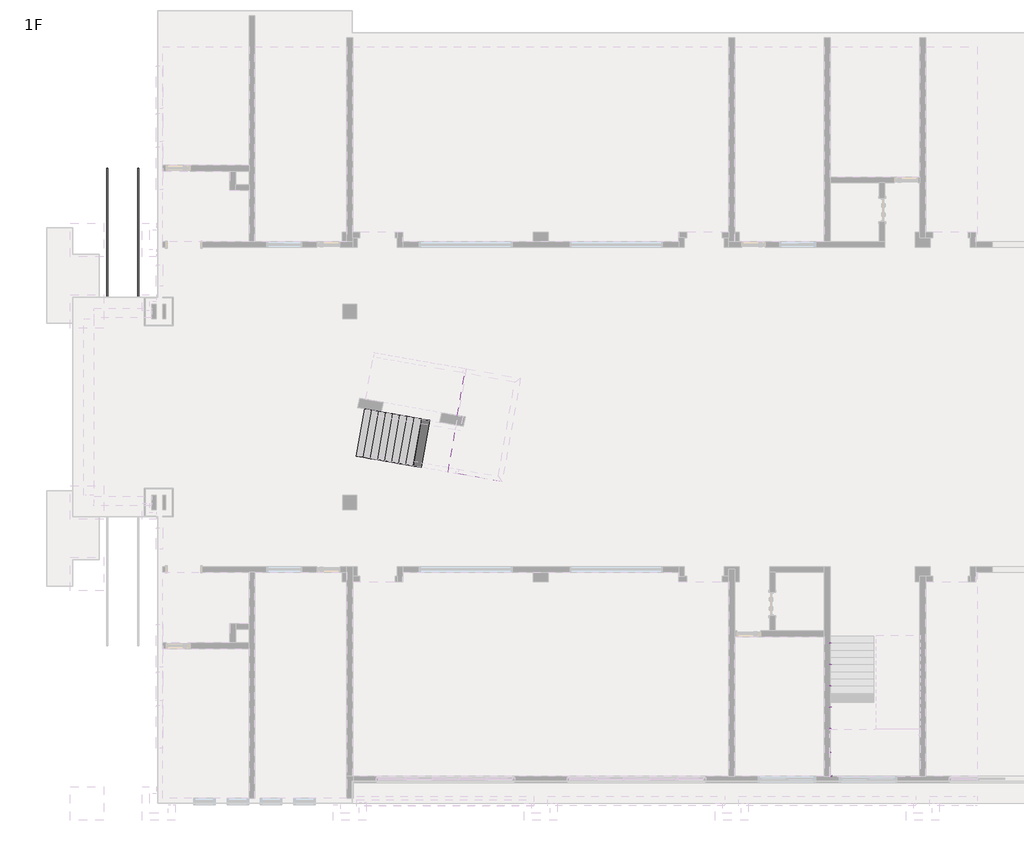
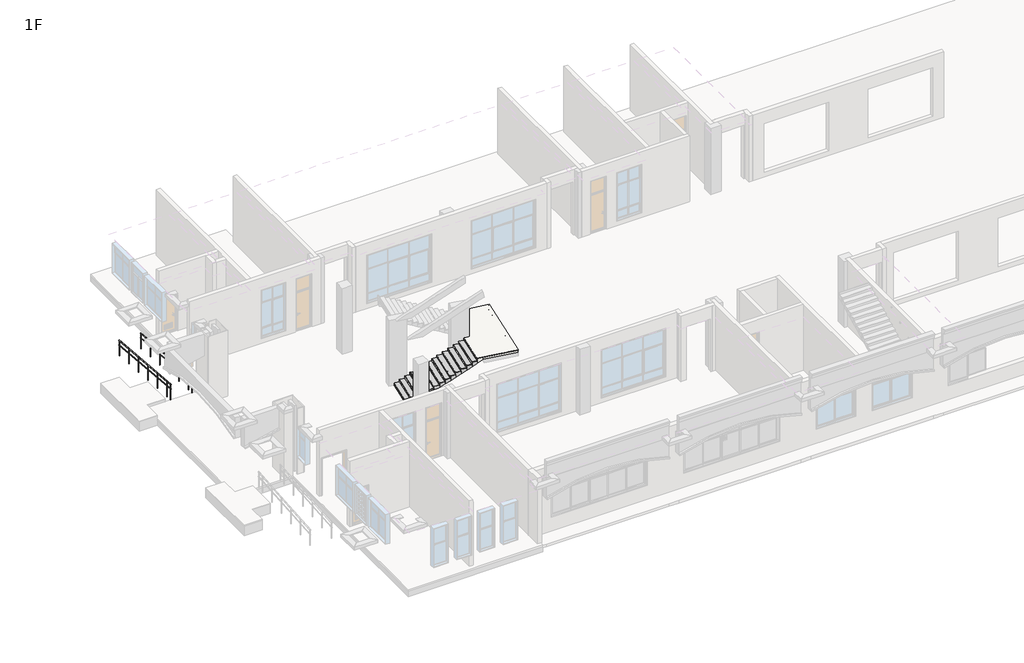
# One storey, part 9 of 16: 7 proxies, 2 railings, 1 slab, 1 stair flight.
"""IFC4 building model written with IfcOpenShell, lengths in millimetres."""

from ifc_helpers import new_model, si_unit, frame, origin, origin_with_axes, place, context, project, spatial, polyline, ellipse_curve, outline, extrude, faceted_brep, transform, mapped, element, save
from ifc_brep_helpers import plane_surface, cylinder_surface, advanced_brep
from components import building_element_proxy_cf76aa7a

model = new_model("IFC4")

# Units and contexts
model_context = context("Model", 3, world=origin())
ifc_project = project(units=[si_unit("LENGTHUNIT", "METRE", prefix="MILLI")], contexts=[model_context])

# Site, building, storey
site = spatial("IfcSite", under=ifc_project)
building = spatial("IfcBuilding", under=site)
storey = spatial("IfcBuildingStorey", under=building, Name="1F", Elevation=0.0)

# Proxies
placement = place(None, origin())
building_element_proxy_shape = building_element_proxy_cf76aa7a(model_context)
element("IfcBuildingElementProxy", 1, Name="支座 - 金属 - 圆形 : 支座 - 金属 - 圆形", ObjectType="支座 - 金属 - 圆形 : 支座 - 金属 - 圆形", at=placement, inside=storey, context=model_context, shape_type="MappedRepresentation", body=[
    mapped(building_element_proxy_shape, transform((31155.0000029, 6712.7401503, 1363.4764574), x_axis=(0.0, 1.0, 0.0), y_axis=(-1.0, 0.0, 0.0), z_axis=(0.0, 0.0, 1.0))),
])
element("IfcBuildingElementProxy", 2, Name="支座 - 金属 - 圆形 : 支座 - 金属 - 圆形", ObjectType="支座 - 金属 - 圆形 : 支座 - 金属 - 圆形", at=placement, inside=storey, context=model_context, shape_type="MappedRepresentation", body=[
    mapped(building_element_proxy_shape, transform((31155.0000029, 5818.3129593, 1810.6900529), x_axis=(0.0, 1.0, 0.0), y_axis=(-1.0, 0.0, 0.0), z_axis=(0.0, 0.0, 1.0))),
])
element("IfcBuildingElementProxy", 3, Name="支座 - 金属 - 圆形 : 支座 - 金属 - 圆形", ObjectType="支座 - 金属 - 圆形 : 支座 - 金属 - 圆形", at=placement, inside=storey, context=model_context, shape_type="MappedRepresentation", body=[
    mapped(building_element_proxy_shape, transform((31155.0000029, 4923.8857683, 2257.9036484), x_axis=(0.0, 1.0, 0.0), y_axis=(-1.0, 0.0, 0.0), z_axis=(0.0, 0.0, 1.0))),
])
element("IfcBuildingElementProxy", 4, Name="支座 - 金属 - 圆形 : 支座 - 金属 - 圆形", ObjectType="支座 - 金属 - 圆形 : 支座 - 金属 - 圆形", at=placement, inside=storey, context=model_context, shape_type="MappedRepresentation", body=[
    mapped(building_element_proxy_shape, transform((31155.0000029, 4029.4585773, 2705.1172439), x_axis=(0.0, 1.0, 0.0), y_axis=(-1.0, 0.0, 0.0), z_axis=(0.0, 0.0, 1.0))),
])
element("IfcBuildingElementProxy", 5, Name="支座 - 金属 - 圆形 : 支座 - 金属 - 圆形", ObjectType="支座 - 金属 - 圆形 : 支座 - 金属 - 圆形", at=placement, inside=storey, context=model_context, shape_type="MappedRepresentation", body=[
    mapped(building_element_proxy_shape, transform((31155.0000029, 3135.0313863, 3152.3308394), x_axis=(0.0, 1.0, 0.0), y_axis=(-1.0, 0.0, 0.0), z_axis=(0.0, 0.0, 1.0))),
])
element("IfcBuildingElementProxy", 6, Name="支座 - 金属 - 圆形 : 支座 - 金属 - 圆形", ObjectType="支座 - 金属 - 圆形 : 支座 - 金属 - 圆形", at=placement, inside=storey, context=model_context, shape_type="MappedRepresentation", body=[
    mapped(building_element_proxy_shape, transform((31155.0000029, 2139.1662806, 3169.8465326), x_axis=(0.0, 1.0, 0.0), y_axis=(-1.0, 0.0, 0.0), z_axis=(0.0, 0.0, 1.0))),
])
element("IfcBuildingElementProxy", 7, Name="支座 - 金属 - 圆形 : 支座 - 金属 - 圆形", ObjectType="支座 - 金属 - 圆形 : 支座 - 金属 - 圆形", at=placement, inside=storey, context=model_context, shape_type="MappedRepresentation", body=[
    mapped(building_element_proxy_shape, transform((31188.8337223, 1173.0, 3169.8465326), x_axis=(-1.0, 0.0, 0.0), y_axis=(0.0, -1.0, 0.0), z_axis=(0.0, 0.0, 1.0))),
])

# Railings
element("IfcRailing", 8, ObjectType="教学楼 – 无障碍坡道扶手 – 1000mm", at=placement, inside=storey, context=model_context, shape_type="AdvancedBrep", body=[
    advanced_brep(
    [(830.0, 26600.0, 529.9306757), (870.0, 26600.0, 529.9306757), (830.0, 21200.0, 979.9306757), (870.0, 21200.0, 979.9306757)],
    [
        (0, 1, ellipse_curve(frame((850.0, 26600.0, 529.9306757), z_axis=(0.0, 1.0, 0.0), x_axis=(0.0, 0.0, -1.0)), 20.0693243, 20.0)),
        (1, 0, ellipse_curve(frame((850.0, 26600.0, 529.9306757), z_axis=(0.0, 1.0, 0.0), x_axis=(0.0, 0.0, -1.0)), 20.0693243, 20.0)),
        (2, 3, ellipse_curve(frame((850.0, 21200.0, 979.9306757), z_axis=(0.0, -1.0, 0.0), x_axis=(0.0, 0.0, -1.0)), 20.0693243, 20.0)),
        (3, 2, ellipse_curve(frame((850.0, 21200.0, 979.9306757), z_axis=(0.0, -1.0, 0.0), x_axis=(0.0, 0.0, -1.0)), 20.0693243, 20.0)),
        (0, 2),
        (3, 1),
    ],
    [
        plane_surface(frame((850.0, 26600.0, 550.0), z_axis=(0.0, 1.0, 0.0), x_axis=(0.0, 0.0, -1.0))),
        plane_surface(frame((850.0, 21200.0, 1000.0), z_axis=(0.0, -1.0, 0.0), x_axis=(0.0, 0.0, -1.0))),
        cylinder_surface(frame((850.0, 26598.3390904, 530.0690848), z_axis=(0.0, 0.9965457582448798, -0.08304547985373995), x_axis=(1.0, 0.0, 0.0)), 20.0),
    ],
    [
        (0, [[1, 2]]),
        (1, [[3, 4]]),
        (2, [[-1, 5, -4, 6]]),
        (2, [[-2, -6, -3, -5]]),
    ],
),
    advanced_brep(
    [(865.0, 26600.0, 234.9480068), (835.0, 26600.0, 234.9480068), (865.0, 21200.0, 684.9480068), (835.0, 21200.0, 684.9480068)],
    [
        (0, 1, ellipse_curve(frame((850.0, 26600.0, 234.9480068), z_axis=(0.0, 1.0, 0.0), x_axis=(0.0, 0.0, -1.0)), 15.0519932, 15.0)),
        (1, 0, ellipse_curve(frame((850.0, 26600.0, 234.9480068), z_axis=(0.0, 1.0, 0.0), x_axis=(0.0, 0.0, -1.0)), 15.0519932, 15.0)),
        (2, 3, ellipse_curve(frame((850.0, 21200.0, 684.9480068), z_axis=(0.0, -1.0, 0.0), x_axis=(0.0, 0.0, -1.0)), 15.0519932, 15.0)),
        (3, 2, ellipse_curve(frame((850.0, 21200.0, 684.9480068), z_axis=(0.0, -1.0, 0.0), x_axis=(0.0, 0.0, -1.0)), 15.0519932, 15.0)),
        (0, 2),
        (3, 1),
    ],
    [
        plane_surface(frame((850.0, 26600.0, 250.0), z_axis=(0.0, 1.0, 0.0), x_axis=(0.0, 0.0, -1.0))),
        plane_surface(frame((850.0, 21200.0, 700.0), z_axis=(0.0, -1.0, 0.0), x_axis=(0.0, 0.0, -1.0))),
        cylinder_surface(frame((850.0, 26598.7543178, 235.0518136), z_axis=(0.0, 0.9965457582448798, -0.08304547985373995), x_axis=(-1.0, 0.0, 0.0)), 15.0),
    ],
    [
        (0, [[1, 2]]),
        (1, [[3, 4]]),
        (2, [[-1, 5, -4, 6]]),
        (2, [[-2, -6, -3, -5]]),
    ],
),
    advanced_brep(
    [(837.5, 21600.0, 926.5280181), (837.5, 21600.0, -33.3333333), (862.5, 21600.0, -33.3333333), (862.5, 21600.0, 926.5280181)],
    [
        (0, 1),
        (1, 2, ellipse_curve(frame((850.0, 21600.0, -33.3333333), z_axis=(0.0, 0.08304547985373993, 0.9965457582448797), x_axis=(0.0, -0.9965457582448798, 0.08304547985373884)), 12.5433277, 12.5)),
        (2, 3),
        (3, 0, ellipse_curve(frame((850.0, 21600.0, 926.5280181), z_axis=(0.0, -0.08304547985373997, -0.9965457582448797), x_axis=(0.0, -0.9965457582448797, 0.0830454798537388)), 12.5433277, 12.5)),
        (0, 3, ellipse_curve(frame((850.0, 21600.0, 926.5280181), z_axis=(0.0, -0.08304547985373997, -0.9965457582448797), x_axis=(0.0, -0.9965457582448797, 0.0830454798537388)), 12.5433277, 12.5)),
        (2, 1, ellipse_curve(frame((850.0, 21600.0, -33.3333333), z_axis=(0.0, 0.08304547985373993, 0.9965457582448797), x_axis=(0.0, -0.9965457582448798, 0.08304547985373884)), 12.5433277, 12.5)),
    ],
    [
        cylinder_surface(frame((850.0, 21600.0, -133.3333333), z_axis=(0.0, 0.0, 1.0), x_axis=(1.0, 0.0, 0.0)), 12.5),
        plane_surface(frame((875.0, 21575.0, 928.6113514), z_axis=(0.0, 0.08304547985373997, 0.9965457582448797), x_axis=(-1.0, 0.0, 0.0))),
        plane_surface(frame((875.0, 21625.0, -35.4166667), z_axis=(0.0, -0.08304547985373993, -0.9965457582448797), x_axis=(-1.0, 0.0, 0.0))),
    ],
    [
        (0, [[1, 2, 3, 4]]),
        (0, [[-1, 5, -3, 6]]),
        (1, [[-4, -5]]),
        (2, [[-2, -6]]),
    ],
),
    advanced_brep(
    [(837.5, 22600.0, 843.1946847), (837.5, 22600.0, -116.6666667), (862.5, 22600.0, -116.6666667), (862.5, 22600.0, 843.1946847)],
    [
        (0, 1),
        (1, 2, ellipse_curve(frame((850.0, 22600.0, -116.6666667), z_axis=(0.0, 0.08304547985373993, 0.9965457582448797), x_axis=(0.0, -0.9965457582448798, 0.08304547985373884)), 12.5433277, 12.5)),
        (2, 3),
        (3, 0, ellipse_curve(frame((850.0, 22600.0, 843.1946847), z_axis=(0.0, -0.08304547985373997, -0.9965457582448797), x_axis=(0.0, -0.9965457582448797, 0.0830454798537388)), 12.5433277, 12.5)),
        (0, 3, ellipse_curve(frame((850.0, 22600.0, 843.1946847), z_axis=(0.0, -0.08304547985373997, -0.9965457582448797), x_axis=(0.0, -0.9965457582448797, 0.0830454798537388)), 12.5433277, 12.5)),
        (2, 1, ellipse_curve(frame((850.0, 22600.0, -116.6666667), z_axis=(0.0, 0.08304547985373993, 0.9965457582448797), x_axis=(0.0, -0.9965457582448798, 0.08304547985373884)), 12.5433277, 12.5)),
    ],
    [
        cylinder_surface(frame((850.0, 22600.0, -216.6666667), z_axis=(0.0, 0.0, 1.0), x_axis=(1.0, 0.0, 0.0)), 12.5),
        plane_surface(frame((875.0, 22575.0, 845.2780181), z_axis=(0.0, 0.08304547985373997, 0.9965457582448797), x_axis=(-1.0, 0.0, 0.0))),
        plane_surface(frame((875.0, 22625.0, -118.75), z_axis=(0.0, -0.08304547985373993, -0.9965457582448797), x_axis=(-1.0, 0.0, 0.0))),
    ],
    [
        (0, [[1, 2, 3, 4]]),
        (0, [[-1, 5, -3, 6]]),
        (1, [[-4, -5]]),
        (2, [[-2, -6]]),
    ],
),
    advanced_brep(
    [(837.5, 23600.0, 759.8613514), (837.5, 23600.0, -200.0), (862.5, 23600.0, -200.0), (862.5, 23600.0, 759.8613514)],
    [
        (0, 1),
        (1, 2, ellipse_curve(frame((850.0, 23600.0, -200.0), z_axis=(0.0, 0.08304547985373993, 0.9965457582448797), x_axis=(0.0, -0.9965457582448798, 0.08304547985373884)), 12.5433277, 12.5)),
        (2, 3),
        (3, 0, ellipse_curve(frame((850.0, 23600.0, 759.8613514), z_axis=(0.0, -0.08304547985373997, -0.9965457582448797), x_axis=(0.0, -0.9965457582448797, 0.0830454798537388)), 12.5433277, 12.5)),
        (0, 3, ellipse_curve(frame((850.0, 23600.0, 759.8613514), z_axis=(0.0, -0.08304547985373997, -0.9965457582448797), x_axis=(0.0, -0.9965457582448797, 0.0830454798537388)), 12.5433277, 12.5)),
        (2, 1, ellipse_curve(frame((850.0, 23600.0, -200.0), z_axis=(0.0, 0.08304547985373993, 0.9965457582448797), x_axis=(0.0, -0.9965457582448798, 0.08304547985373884)), 12.5433277, 12.5)),
    ],
    [
        cylinder_surface(frame((850.0, 23600.0, -300.0), z_axis=(0.0, 0.0, 1.0), x_axis=(1.0, 0.0, 0.0)), 12.5),
        plane_surface(frame((875.0, 23575.0, 761.9446847), z_axis=(0.0, 0.08304547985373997, 0.9965457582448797), x_axis=(-1.0, 0.0, 0.0))),
        plane_surface(frame((875.0, 23625.0, -202.0833333), z_axis=(0.0, -0.08304547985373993, -0.9965457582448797), x_axis=(-1.0, 0.0, 0.0))),
    ],
    [
        (0, [[1, 2, 3, 4]]),
        (0, [[-1, 5, -3, 6]]),
        (1, [[-4, -5]]),
        (2, [[-2, -6]]),
    ],
),
    advanced_brep(
    [(837.5, 24600.0, 676.5280181), (837.5, 24600.0, -283.3333333), (862.5, 24600.0, -283.3333333), (862.5, 24600.0, 676.5280181)],
    [
        (0, 1),
        (1, 2, ellipse_curve(frame((850.0, 24600.0, -283.3333333), z_axis=(0.0, 0.08304547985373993, 0.9965457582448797), x_axis=(0.0, -0.9965457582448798, 0.08304547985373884)), 12.5433277, 12.5)),
        (2, 3),
        (3, 0, ellipse_curve(frame((850.0, 24600.0, 676.5280181), z_axis=(0.0, -0.08304547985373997, -0.9965457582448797), x_axis=(0.0, -0.9965457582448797, 0.0830454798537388)), 12.5433277, 12.5)),
        (0, 3, ellipse_curve(frame((850.0, 24600.0, 676.5280181), z_axis=(0.0, -0.08304547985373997, -0.9965457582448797), x_axis=(0.0, -0.9965457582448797, 0.0830454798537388)), 12.5433277, 12.5)),
        (2, 1, ellipse_curve(frame((850.0, 24600.0, -283.3333333), z_axis=(0.0, 0.08304547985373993, 0.9965457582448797), x_axis=(0.0, -0.9965457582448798, 0.08304547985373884)), 12.5433277, 12.5)),
    ],
    [
        cylinder_surface(frame((850.0, 24600.0, -383.3333333), z_axis=(0.0, 0.0, 1.0), x_axis=(1.0, 0.0, 0.0)), 12.5),
        plane_surface(frame((875.0, 24575.0, 678.6113514), z_axis=(0.0, 0.08304547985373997, 0.9965457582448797), x_axis=(-1.0, 0.0, 0.0))),
        plane_surface(frame((875.0, 24625.0, -285.4166667), z_axis=(0.0, -0.08304547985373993, -0.9965457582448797), x_axis=(-1.0, 0.0, 0.0))),
    ],
    [
        (0, [[1, 2, 3, 4]]),
        (0, [[-1, 5, -3, 6]]),
        (1, [[-4, -5]]),
        (2, [[-2, -6]]),
    ],
),
    advanced_brep(
    [(837.5, 25600.0, 593.1946847), (837.5, 25600.0, -366.6666667), (862.5, 25600.0, -366.6666667), (862.5, 25600.0, 593.1946847)],
    [
        (0, 1),
        (1, 2, ellipse_curve(frame((850.0, 25600.0, -366.6666667), z_axis=(0.0, 0.08304547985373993, 0.9965457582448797), x_axis=(0.0, -0.9965457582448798, 0.08304547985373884)), 12.5433277, 12.5)),
        (2, 3),
        (3, 0, ellipse_curve(frame((850.0, 25600.0, 593.1946847), z_axis=(0.0, -0.08304547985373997, -0.9965457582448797), x_axis=(0.0, -0.9965457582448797, 0.0830454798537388)), 12.5433277, 12.5)),
        (0, 3, ellipse_curve(frame((850.0, 25600.0, 593.1946847), z_axis=(0.0, -0.08304547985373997, -0.9965457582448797), x_axis=(0.0, -0.9965457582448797, 0.0830454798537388)), 12.5433277, 12.5)),
        (2, 1, ellipse_curve(frame((850.0, 25600.0, -366.6666667), z_axis=(0.0, 0.08304547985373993, 0.9965457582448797), x_axis=(0.0, -0.9965457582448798, 0.08304547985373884)), 12.5433277, 12.5)),
    ],
    [
        cylinder_surface(frame((850.0, 25600.0, -466.6666667), z_axis=(0.0, 0.0, 1.0), x_axis=(1.0, 0.0, 0.0)), 12.5),
        plane_surface(frame((875.0, 25575.0, 595.2780181), z_axis=(0.0, 0.08304547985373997, 0.9965457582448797), x_axis=(-1.0, 0.0, 0.0))),
        plane_surface(frame((875.0, 25625.0, -368.75), z_axis=(0.0, -0.08304547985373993, -0.9965457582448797), x_axis=(-1.0, 0.0, 0.0))),
    ],
    [
        (0, [[1, 2, 3, 4]]),
        (0, [[-1, 5, -3, 6]]),
        (1, [[-4, -5]]),
        (2, [[-2, -6]]),
    ],
),
    advanced_brep(
    [(837.5, 21212.5, 958.8196847), (837.5, 21212.5, -1.0416667), (862.5, 21212.5, -1.0416667), (862.5, 21212.5, 958.8196847)],
    [
        (0, 1),
        (1, 2, ellipse_curve(frame((850.0, 21212.5, -1.0416667), z_axis=(0.0, 0.08304547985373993, 0.9965457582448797), x_axis=(0.0, -0.9965457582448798, 0.08304547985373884)), 12.5433277, 12.5)),
        (2, 3),
        (3, 0, ellipse_curve(frame((850.0, 21212.5, 958.8196847), z_axis=(0.0, -0.08304547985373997, -0.9965457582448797), x_axis=(0.0, -0.9965457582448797, 0.0830454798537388)), 12.5433277, 12.5)),
        (0, 3, ellipse_curve(frame((850.0, 21212.5, 958.8196847), z_axis=(0.0, -0.08304547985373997, -0.9965457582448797), x_axis=(0.0, -0.9965457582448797, 0.0830454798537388)), 12.5433277, 12.5)),
        (2, 1, ellipse_curve(frame((850.0, 21212.5, -1.0416667), z_axis=(0.0, 0.08304547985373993, 0.9965457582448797), x_axis=(0.0, -0.9965457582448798, 0.08304547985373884)), 12.5433277, 12.5)),
    ],
    [
        cylinder_surface(frame((850.0, 21212.5, -101.0416667), z_axis=(0.0, 0.0, 1.0), x_axis=(1.0, 0.0, 0.0)), 12.5),
        plane_surface(frame((875.0, 21187.5, 960.9030181), z_axis=(0.0, 0.08304547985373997, 0.9965457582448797), x_axis=(-1.0, 0.0, 0.0))),
        plane_surface(frame((875.0, 21237.5, -3.125), z_axis=(0.0, -0.08304547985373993, -0.9965457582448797), x_axis=(-1.0, 0.0, 0.0))),
    ],
    [
        (0, [[1, 2, 3, 4]]),
        (0, [[-1, 5, -3, 6]]),
        (1, [[-4, -5]]),
        (2, [[-2, -6]]),
    ],
),
    advanced_brep(
    [(837.5, 26587.5, 510.9030181), (837.5, 26587.5, -448.9583333), (862.5, 26587.5, -448.9583333), (862.5, 26587.5, 510.9030181)],
    [
        (0, 1),
        (1, 2, ellipse_curve(frame((850.0, 26587.5, -448.9583333), z_axis=(0.0, 0.08304547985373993, 0.9965457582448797), x_axis=(0.0, -0.9965457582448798, 0.08304547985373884)), 12.5433277, 12.5)),
        (2, 3),
        (3, 0, ellipse_curve(frame((850.0, 26587.5, 510.9030181), z_axis=(0.0, -0.08304547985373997, -0.9965457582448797), x_axis=(0.0, -0.9965457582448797, 0.0830454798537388)), 12.5433277, 12.5)),
        (0, 3, ellipse_curve(frame((850.0, 26587.5, 510.9030181), z_axis=(0.0, -0.08304547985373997, -0.9965457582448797), x_axis=(0.0, -0.9965457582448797, 0.0830454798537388)), 12.5433277, 12.5)),
        (2, 1, ellipse_curve(frame((850.0, 26587.5, -448.9583333), z_axis=(0.0, 0.08304547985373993, 0.9965457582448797), x_axis=(0.0, -0.9965457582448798, 0.08304547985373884)), 12.5433277, 12.5)),
    ],
    [
        cylinder_surface(frame((850.0, 26587.5, -548.9583333), z_axis=(0.0, 0.0, 1.0), x_axis=(1.0, 0.0, 0.0)), 12.5),
        plane_surface(frame((875.0, 26562.5, 512.9863514), z_axis=(0.0, 0.08304547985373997, 0.9965457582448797), x_axis=(-1.0, 0.0, 0.0))),
        plane_surface(frame((875.0, 26612.5, -451.0416667), z_axis=(0.0, -0.08304547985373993, -0.9965457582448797), x_axis=(-1.0, 0.0, 0.0))),
    ],
    [
        (0, [[1, 2, 3, 4]]),
        (0, [[-1, 5, -3, 6]]),
        (1, [[-4, -5]]),
        (2, [[-2, -6]]),
    ],
),
])
element("IfcRailing", 9, ObjectType="教学楼 – 无障碍坡道扶手 – 1000mm", at=placement, inside=storey, context=model_context, shape_type="AdvancedBrep", body=[
    advanced_brep(
    [(2130.0, 26600.0, 529.9306757), (2170.0, 26600.0, 529.9306757), (2130.0, 21200.0, 979.9306757), (2170.0, 21200.0, 979.9306757)],
    [
        (0, 1, ellipse_curve(frame((2150.0, 26600.0, 529.9306757), z_axis=(0.0, 1.0, 0.0), x_axis=(0.0, 0.0, -1.0)), 20.0693243, 20.0)),
        (1, 0, ellipse_curve(frame((2150.0, 26600.0, 529.9306757), z_axis=(0.0, 1.0, 0.0), x_axis=(0.0, 0.0, -1.0)), 20.0693243, 20.0)),
        (2, 3, ellipse_curve(frame((2150.0, 21200.0, 979.9306757), z_axis=(0.0, -1.0, 0.0), x_axis=(0.0, 0.0, -1.0)), 20.0693243, 20.0)),
        (3, 2, ellipse_curve(frame((2150.0, 21200.0, 979.9306757), z_axis=(0.0, -1.0, 0.0), x_axis=(0.0, 0.0, -1.0)), 20.0693243, 20.0)),
        (0, 2),
        (3, 1),
    ],
    [
        plane_surface(frame((2150.0, 26600.0, 550.0), z_axis=(0.0, 1.0, 0.0), x_axis=(0.0, 0.0, -1.0))),
        plane_surface(frame((2150.0, 21200.0, 1000.0), z_axis=(0.0, -1.0, 0.0), x_axis=(0.0, 0.0, -1.0))),
        cylinder_surface(frame((2150.0, 26598.3390904, 530.0690848), z_axis=(0.0, 0.9965457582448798, -0.08304547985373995), x_axis=(1.0, 0.0, 0.0)), 20.0),
    ],
    [
        (0, [[1, 2]]),
        (1, [[3, 4]]),
        (2, [[-1, 5, -4, 6]]),
        (2, [[-2, -6, -3, -5]]),
    ],
),
    advanced_brep(
    [(2135.0, 26600.0, 234.9480068), (2165.0, 26600.0, 234.9480068), (2135.0, 21200.0, 684.9480068), (2165.0, 21200.0, 684.9480068)],
    [
        (0, 1, ellipse_curve(frame((2150.0, 26600.0, 234.9480068), z_axis=(0.0, 1.0, 0.0), x_axis=(0.0, 0.0, -1.0)), 15.0519932, 15.0)),
        (1, 0, ellipse_curve(frame((2150.0, 26600.0, 234.9480068), z_axis=(0.0, 1.0, 0.0), x_axis=(0.0, 0.0, -1.0)), 15.0519932, 15.0)),
        (2, 3, ellipse_curve(frame((2150.0, 21200.0, 684.9480068), z_axis=(0.0, -1.0, 0.0), x_axis=(0.0, 0.0, -1.0)), 15.0519932, 15.0)),
        (3, 2, ellipse_curve(frame((2150.0, 21200.0, 684.9480068), z_axis=(0.0, -1.0, 0.0), x_axis=(0.0, 0.0, -1.0)), 15.0519932, 15.0)),
        (1, 3),
        (2, 0),
    ],
    [
        plane_surface(frame((2150.0, 26600.0, 250.0), z_axis=(0.0, 1.0, 0.0), x_axis=(0.0, 0.0, -1.0))),
        plane_surface(frame((2150.0, 21200.0, 700.0), z_axis=(0.0, -1.0, 0.0), x_axis=(0.0, 0.0, -1.0))),
        cylinder_surface(frame((2150.0, 26598.7543178, 235.0518136), z_axis=(0.0, 0.9965457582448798, -0.08304547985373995), x_axis=(1.0, 0.0, 0.0)), 15.0),
    ],
    [
        (0, [[1, 2]]),
        (1, [[3, 4]]),
        (2, [[-2, 5, -3, 6]]),
        (2, [[-1, -6, -4, -5]]),
    ],
),
    advanced_brep(
    [(2162.5, 21600.0, 926.5280181), (2137.5, 21600.0, 926.5280181), (2137.5, 21600.0, -33.3333333), (2162.5, 21600.0, -33.3333333)],
    [
        (0, 1, ellipse_curve(frame((2150.0, 21600.0, 926.5280181), z_axis=(0.0, -0.08304547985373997, -0.9965457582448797), x_axis=(0.0, -0.9965457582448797, 0.0830454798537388)), 12.5433277, 12.5)),
        (1, 2),
        (2, 3, ellipse_curve(frame((2150.0, 21600.0, -33.3333333), z_axis=(0.0, 0.08304547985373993, 0.9965457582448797), x_axis=(0.0, -0.9965457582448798, 0.08304547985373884)), 12.5433277, 12.5)),
        (3, 0),
        (3, 2, ellipse_curve(frame((2150.0, 21600.0, -33.3333333), z_axis=(0.0, 0.08304547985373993, 0.9965457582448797), x_axis=(0.0, -0.9965457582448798, 0.08304547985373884)), 12.5433277, 12.5)),
        (1, 0, ellipse_curve(frame((2150.0, 21600.0, 926.5280181), z_axis=(0.0, -0.08304547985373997, -0.9965457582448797), x_axis=(0.0, -0.9965457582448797, 0.0830454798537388)), 12.5433277, 12.5)),
    ],
    [
        cylinder_surface(frame((2150.0, 21600.0, -133.3333333), z_axis=(0.0, 0.0, 1.0), x_axis=(-1.0, 0.0, 0.0)), 12.5),
        plane_surface(frame((2125.0, 21575.0, 928.6113514), z_axis=(0.0, 0.08304547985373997, 0.9965457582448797), x_axis=(1.0, 0.0, 0.0))),
        plane_surface(frame((2125.0, 21625.0, -35.4166667), z_axis=(0.0, -0.08304547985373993, -0.9965457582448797), x_axis=(1.0, 0.0, 0.0))),
    ],
    [
        (0, [[1, 2, 3, 4]]),
        (0, [[5, -2, 6, -4]]),
        (1, [[-6, -1]]),
        (2, [[-5, -3]]),
    ],
),
    advanced_brep(
    [(2162.5, 22600.0, 843.1946847), (2137.5, 22600.0, 843.1946847), (2137.5, 22600.0, -116.6666667), (2162.5, 22600.0, -116.6666667)],
    [
        (0, 1, ellipse_curve(frame((2150.0, 22600.0, 843.1946847), z_axis=(0.0, -0.08304547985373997, -0.9965457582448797), x_axis=(0.0, -0.9965457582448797, 0.0830454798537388)), 12.5433277, 12.5)),
        (1, 2),
        (2, 3, ellipse_curve(frame((2150.0, 22600.0, -116.6666667), z_axis=(0.0, 0.08304547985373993, 0.9965457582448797), x_axis=(0.0, -0.9965457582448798, 0.08304547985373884)), 12.5433277, 12.5)),
        (3, 0),
        (3, 2, ellipse_curve(frame((2150.0, 22600.0, -116.6666667), z_axis=(0.0, 0.08304547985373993, 0.9965457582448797), x_axis=(0.0, -0.9965457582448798, 0.08304547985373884)), 12.5433277, 12.5)),
        (1, 0, ellipse_curve(frame((2150.0, 22600.0, 843.1946847), z_axis=(0.0, -0.08304547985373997, -0.9965457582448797), x_axis=(0.0, -0.9965457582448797, 0.0830454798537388)), 12.5433277, 12.5)),
    ],
    [
        cylinder_surface(frame((2150.0, 22600.0, -216.6666667), z_axis=(0.0, 0.0, 1.0), x_axis=(-1.0, 0.0, 0.0)), 12.5),
        plane_surface(frame((2125.0, 22575.0, 845.2780181), z_axis=(0.0, 0.08304547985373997, 0.9965457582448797), x_axis=(1.0, 0.0, 0.0))),
        plane_surface(frame((2125.0, 22625.0, -118.75), z_axis=(0.0, -0.08304547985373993, -0.9965457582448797), x_axis=(1.0, 0.0, 0.0))),
    ],
    [
        (0, [[1, 2, 3, 4]]),
        (0, [[5, -2, 6, -4]]),
        (1, [[-6, -1]]),
        (2, [[-5, -3]]),
    ],
),
    advanced_brep(
    [(2162.5, 23600.0, 759.8613514), (2137.5, 23600.0, 759.8613514), (2137.5, 23600.0, -200.0), (2162.5, 23600.0, -200.0)],
    [
        (0, 1, ellipse_curve(frame((2150.0, 23600.0, 759.8613514), z_axis=(0.0, -0.08304547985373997, -0.9965457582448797), x_axis=(0.0, -0.9965457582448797, 0.0830454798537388)), 12.5433277, 12.5)),
        (1, 2),
        (2, 3, ellipse_curve(frame((2150.0, 23600.0, -200.0), z_axis=(0.0, 0.08304547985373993, 0.9965457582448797), x_axis=(0.0, -0.9965457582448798, 0.08304547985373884)), 12.5433277, 12.5)),
        (3, 0),
        (3, 2, ellipse_curve(frame((2150.0, 23600.0, -200.0), z_axis=(0.0, 0.08304547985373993, 0.9965457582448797), x_axis=(0.0, -0.9965457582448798, 0.08304547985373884)), 12.5433277, 12.5)),
        (1, 0, ellipse_curve(frame((2150.0, 23600.0, 759.8613514), z_axis=(0.0, -0.08304547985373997, -0.9965457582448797), x_axis=(0.0, -0.9965457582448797, 0.0830454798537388)), 12.5433277, 12.5)),
    ],
    [
        cylinder_surface(frame((2150.0, 23600.0, -300.0), z_axis=(0.0, 0.0, 1.0), x_axis=(-1.0, 0.0, 0.0)), 12.5),
        plane_surface(frame((2125.0, 23575.0, 761.9446847), z_axis=(0.0, 0.08304547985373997, 0.9965457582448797), x_axis=(1.0, 0.0, 0.0))),
        plane_surface(frame((2125.0, 23625.0, -202.0833333), z_axis=(0.0, -0.08304547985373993, -0.9965457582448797), x_axis=(1.0, 0.0, 0.0))),
    ],
    [
        (0, [[1, 2, 3, 4]]),
        (0, [[5, -2, 6, -4]]),
        (1, [[-6, -1]]),
        (2, [[-5, -3]]),
    ],
),
    advanced_brep(
    [(2162.5, 24600.0, 676.5280181), (2137.5, 24600.0, 676.5280181), (2137.5, 24600.0, -283.3333333), (2162.5, 24600.0, -283.3333333)],
    [
        (0, 1, ellipse_curve(frame((2150.0, 24600.0, 676.5280181), z_axis=(0.0, -0.08304547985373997, -0.9965457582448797), x_axis=(0.0, -0.9965457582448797, 0.0830454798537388)), 12.5433277, 12.5)),
        (1, 2),
        (2, 3, ellipse_curve(frame((2150.0, 24600.0, -283.3333333), z_axis=(0.0, 0.08304547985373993, 0.9965457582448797), x_axis=(0.0, -0.9965457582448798, 0.08304547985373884)), 12.5433277, 12.5)),
        (3, 0),
        (3, 2, ellipse_curve(frame((2150.0, 24600.0, -283.3333333), z_axis=(0.0, 0.08304547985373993, 0.9965457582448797), x_axis=(0.0, -0.9965457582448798, 0.08304547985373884)), 12.5433277, 12.5)),
        (1, 0, ellipse_curve(frame((2150.0, 24600.0, 676.5280181), z_axis=(0.0, -0.08304547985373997, -0.9965457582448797), x_axis=(0.0, -0.9965457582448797, 0.0830454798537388)), 12.5433277, 12.5)),
    ],
    [
        cylinder_surface(frame((2150.0, 24600.0, -383.3333333), z_axis=(0.0, 0.0, 1.0), x_axis=(-1.0, 0.0, 0.0)), 12.5),
        plane_surface(frame((2125.0, 24575.0, 678.6113514), z_axis=(0.0, 0.08304547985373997, 0.9965457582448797), x_axis=(1.0, 0.0, 0.0))),
        plane_surface(frame((2125.0, 24625.0, -285.4166667), z_axis=(0.0, -0.08304547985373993, -0.9965457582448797), x_axis=(1.0, 0.0, 0.0))),
    ],
    [
        (0, [[1, 2, 3, 4]]),
        (0, [[5, -2, 6, -4]]),
        (1, [[-6, -1]]),
        (2, [[-5, -3]]),
    ],
),
    advanced_brep(
    [(2162.5, 25600.0, 593.1946847), (2137.5, 25600.0, 593.1946847), (2137.5, 25600.0, -366.6666667), (2162.5, 25600.0, -366.6666667)],
    [
        (0, 1, ellipse_curve(frame((2150.0, 25600.0, 593.1946847), z_axis=(0.0, -0.08304547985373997, -0.9965457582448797), x_axis=(0.0, -0.9965457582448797, 0.0830454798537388)), 12.5433277, 12.5)),
        (1, 2),
        (2, 3, ellipse_curve(frame((2150.0, 25600.0, -366.6666667), z_axis=(0.0, 0.08304547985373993, 0.9965457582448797), x_axis=(0.0, -0.9965457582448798, 0.08304547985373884)), 12.5433277, 12.5)),
        (3, 0),
        (3, 2, ellipse_curve(frame((2150.0, 25600.0, -366.6666667), z_axis=(0.0, 0.08304547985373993, 0.9965457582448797), x_axis=(0.0, -0.9965457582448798, 0.08304547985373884)), 12.5433277, 12.5)),
        (1, 0, ellipse_curve(frame((2150.0, 25600.0, 593.1946847), z_axis=(0.0, -0.08304547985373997, -0.9965457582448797), x_axis=(0.0, -0.9965457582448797, 0.0830454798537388)), 12.5433277, 12.5)),
    ],
    [
        cylinder_surface(frame((2150.0, 25600.0, -466.6666667), z_axis=(0.0, 0.0, 1.0), x_axis=(-1.0, 0.0, 0.0)), 12.5),
        plane_surface(frame((2125.0, 25575.0, 595.2780181), z_axis=(0.0, 0.08304547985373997, 0.9965457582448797), x_axis=(1.0, 0.0, 0.0))),
        plane_surface(frame((2125.0, 25625.0, -368.75), z_axis=(0.0, -0.08304547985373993, -0.9965457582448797), x_axis=(1.0, 0.0, 0.0))),
    ],
    [
        (0, [[1, 2, 3, 4]]),
        (0, [[5, -2, 6, -4]]),
        (1, [[-6, -1]]),
        (2, [[-5, -3]]),
    ],
),
    advanced_brep(
    [(2162.5, 21212.5, 958.8196847), (2137.5, 21212.5, 958.8196847), (2137.5, 21212.5, -1.0416667), (2162.5, 21212.5, -1.0416667)],
    [
        (0, 1, ellipse_curve(frame((2150.0, 21212.5, 958.8196847), z_axis=(0.0, -0.08304547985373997, -0.9965457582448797), x_axis=(0.0, -0.9965457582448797, 0.0830454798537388)), 12.5433277, 12.5)),
        (1, 2),
        (2, 3, ellipse_curve(frame((2150.0, 21212.5, -1.0416667), z_axis=(0.0, 0.08304547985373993, 0.9965457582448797), x_axis=(0.0, -0.9965457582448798, 0.08304547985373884)), 12.5433277, 12.5)),
        (3, 0),
        (3, 2, ellipse_curve(frame((2150.0, 21212.5, -1.0416667), z_axis=(0.0, 0.08304547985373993, 0.9965457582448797), x_axis=(0.0, -0.9965457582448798, 0.08304547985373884)), 12.5433277, 12.5)),
        (1, 0, ellipse_curve(frame((2150.0, 21212.5, 958.8196847), z_axis=(0.0, -0.08304547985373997, -0.9965457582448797), x_axis=(0.0, -0.9965457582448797, 0.0830454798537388)), 12.5433277, 12.5)),
    ],
    [
        cylinder_surface(frame((2150.0, 21212.5, -101.0416667), z_axis=(0.0, 0.0, 1.0), x_axis=(-1.0, 0.0, 0.0)), 12.5),
        plane_surface(frame((2125.0, 21187.5, 960.9030181), z_axis=(0.0, 0.08304547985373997, 0.9965457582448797), x_axis=(1.0, 0.0, 0.0))),
        plane_surface(frame((2125.0, 21237.5, -3.125), z_axis=(0.0, -0.08304547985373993, -0.9965457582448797), x_axis=(1.0, 0.0, 0.0))),
    ],
    [
        (0, [[1, 2, 3, 4]]),
        (0, [[5, -2, 6, -4]]),
        (1, [[-6, -1]]),
        (2, [[-5, -3]]),
    ],
),
    advanced_brep(
    [(2162.5, 26587.5, 510.9030181), (2137.5, 26587.5, 510.9030181), (2137.5, 26587.5, -448.9583333), (2162.5, 26587.5, -448.9583333)],
    [
        (0, 1, ellipse_curve(frame((2150.0, 26587.5, 510.9030181), z_axis=(0.0, -0.08304547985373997, -0.9965457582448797), x_axis=(0.0, -0.9965457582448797, 0.0830454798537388)), 12.5433277, 12.5)),
        (1, 2),
        (2, 3, ellipse_curve(frame((2150.0, 26587.5, -448.9583333), z_axis=(0.0, 0.08304547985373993, 0.9965457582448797), x_axis=(0.0, -0.9965457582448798, 0.08304547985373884)), 12.5433277, 12.5)),
        (3, 0),
        (3, 2, ellipse_curve(frame((2150.0, 26587.5, -448.9583333), z_axis=(0.0, 0.08304547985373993, 0.9965457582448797), x_axis=(0.0, -0.9965457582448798, 0.08304547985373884)), 12.5433277, 12.5)),
        (1, 0, ellipse_curve(frame((2150.0, 26587.5, 510.9030181), z_axis=(0.0, -0.08304547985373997, -0.9965457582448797), x_axis=(0.0, -0.9965457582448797, 0.0830454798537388)), 12.5433277, 12.5)),
    ],
    [
        cylinder_surface(frame((2150.0, 26587.5, -548.9583333), z_axis=(0.0, 0.0, 1.0), x_axis=(-1.0, 0.0, 0.0)), 12.5),
        plane_surface(frame((2125.0, 26562.5, 512.9863514), z_axis=(0.0, 0.08304547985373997, 0.9965457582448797), x_axis=(1.0, 0.0, 0.0))),
        plane_surface(frame((2125.0, 26612.5, -451.0416667), z_axis=(0.0, -0.08304547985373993, -0.9965457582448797), x_axis=(1.0, 0.0, 0.0))),
    ],
    [
        (0, [[1, 2, 3, 4]]),
        (0, [[5, -2, 6, -4]]),
        (1, [[-6, -1]]),
        (2, [[-5, -3]]),
    ],
),
])

# Slab
element("IfcSlab", 10, ObjectType="120mm 厚度", at=placement, inside=storey, context=model_context, shape_type="SolidModel", body=[
    faceted_brep([(15465.6994036, 15838.7829702, 2070.0), (15495.2436362, 15833.5735249, 2070.0), (15147.9472808, 13863.9580189, 2070.0), (15471.2873957, 13806.9444327, 2070.0), (17383.4608802, 13469.7766556, 2070.0), (18147.5128619, 17802.9307688, 2070.0), (15882.45503, 18202.3215775, 2070.0), (15852.9107974, 18207.5310228, 2070.0), (15505.6144421, 16237.9155168, 2070.0), (15535.1586747, 16232.7060714, 2070.0), (15465.6994036, 15838.7829702, 1950.0), (15495.2436362, 15833.5735249, 1950.0), (15495.2436362, 15833.5735249, 1920.0), (15495.2436362, 15833.5735249, 1785.8359214), (15147.9472808, 13863.9580189, 1785.8359214), (15147.9472808, 13863.9580189, 1920.0), (15471.2873957, 13806.9444327, 1950.0), (17383.4608802, 13469.7766556, 1950.0), (18147.5128619, 17802.9307688, 1950.0), (15882.45503, 18202.3215775, 1950.0), (15852.9107974, 18207.5310228, 1950.0), (15505.6144421, 16237.9155168, 1950.0), (15535.1586747, 16232.7060714, 1950.0), (15818.583751, 15776.5599387, 1950.0)], [[[0, 1, 2, 3, 4, 5, 6, 7, 8, 9]], [[1, 0, 10, 11]], [[2, 1, 11, 12, 13, 14, 15]], [[2, 15, 14, 16, 17, 4, 3]], [[5, 4, 17, 18]], [[6, 5, 18, 19]], [[7, 6, 19, 20]], [[8, 7, 20, 21]], [[9, 8, 21, 22]], [[0, 9, 22, 10]], [[16, 23, 11, 10, 22, 21, 20, 19, 18, 17]], [[23, 16, 14, 13]], [[11, 23, 13, 12]]]),
    extrude(outline(polyline([(15465.6994036, 15838.7829702), (15535.1586747, 16232.7060714), (15882.45503, 18202.3215775), (18147.5128619, 17802.9307688), (17383.4608802, 13469.7766556), (15118.4030483, 13869.1674642), (15465.6994036, 15838.7829702)])), frame((0.0, 0.0, 2070.0), z_axis=(0.0, 0.0, 1.0), x_axis=(1.0, 0.0, 0.0)), (0.0, 0.0, 1.0), 30.0),
])

# Stair flight
element("IfcStairFlight", 11, ObjectType="120mm 结构深度", at=placement, inside=storey, context=model_context, shape_type="SolidModel", body=[
    faceted_brep([(11949.9357253, 16458.7069645, 120.0), (11654.4933994, 16510.8014178, 120.0), (11307.1970441, 14541.1859118, 120.0), (11602.63937, 14489.0914585, 120.0), (11949.9357253, 16458.7069645, 0.0), (11654.4933994, 16510.8014178, 0.0), (11307.1970441, 14541.1859118, 0.0), (11602.63937, 14489.0914585, 0.0), (12245.3780512, 16406.6125112, 270.0), (11949.9357253, 16458.7069645, 270.0), (11602.63937, 14489.0914585, 270.0), (11898.0816959, 14436.9970052, 270.0), (12245.3780512, 16406.6125112, 135.8359214), (11977.8335143, 16453.7878316, 0.0), (11630.5371589, 14484.1723256, 0.0), (11898.0816959, 14436.9970052, 135.8359214), (12540.8203771, 16354.5180579, 420.0), (12245.3780512, 16406.6125112, 420.0), (11898.0816959, 14436.9970052, 420.0), (12193.5240218, 14384.9025519, 420.0), (12540.8203771, 16354.5180579, 285.8359214), (12193.5240218, 14384.9025519, 285.8359214), (12836.262703, 16302.4236046, 570.0), (12540.8203771, 16354.5180579, 570.0), (12193.5240218, 14384.9025519, 570.0), (12488.9663477, 14332.8080986, 570.0), (12836.262703, 16302.4236046, 435.8359214), (12488.9663477, 14332.8080986, 435.8359214), (13131.7050289, 16250.3291513, 720.0), (12836.262703, 16302.4236046, 720.0), (12488.9663477, 14332.8080986, 720.0), (12784.4086736, 14280.7136453, 720.0), (13131.7050289, 16250.3291513, 585.8359214), (12784.4086736, 14280.7136453, 585.8359214), (13427.1473549, 16198.234698, 870.0), (13131.7050289, 16250.3291513, 870.0), (12784.4086736, 14280.7136453, 870.0), (13079.8509995, 14228.619192, 870.0), (13427.1473549, 16198.234698, 735.8359214), (13079.8509995, 14228.619192, 735.8359214), (13722.5896808, 16146.1402447, 1020.0), (13427.1473549, 16198.234698, 1020.0), (13079.8509995, 14228.619192, 1020.0), (13375.2933254, 14176.5247387, 1020.0), (13722.5896808, 16146.1402447, 885.8359214), (13375.2933254, 14176.5247387, 885.8359214), (14018.0320067, 16094.0457914, 1170.0), (13722.5896808, 16146.1402447, 1170.0), (13375.2933254, 14176.5247387, 1170.0), (13670.7356513, 14124.4302854, 1170.0), (14018.0320067, 16094.0457914, 1035.8359214), (13670.7356513, 14124.4302854, 1035.8359214), (14313.4743326, 16041.9513381, 1320.0), (14018.0320067, 16094.0457914, 1320.0), (13670.7356513, 14124.4302854, 1320.0), (13966.1779772, 14072.3358321, 1320.0), (14313.4743326, 16041.9513381, 1185.8359214), (13966.1779772, 14072.3358321, 1185.8359214), (14608.9166585, 15989.8568848, 1470.0), (14313.4743326, 16041.9513381, 1470.0), (13966.1779772, 14072.3358321, 1470.0), (14261.6203031, 14020.2413788, 1470.0), (14608.9166585, 15989.8568848, 1335.8359214), (14261.6203031, 14020.2413788, 1335.8359214), (14904.3589844, 15937.7624315, 1620.0), (14608.9166585, 15989.8568848, 1620.0), (14261.6203031, 14020.2413788, 1620.0), (14557.062629, 13968.1469255, 1620.0), (14904.3589844, 15937.7624315, 1485.8359214), (14557.062629, 13968.1469255, 1485.8359214), (15199.8013103, 15885.6679782, 1770.0), (14904.3589844, 15937.7624315, 1770.0), (14557.062629, 13968.1469255, 1770.0), (14852.5049549, 13916.0524722, 1770.0), (15199.8013103, 15885.6679782, 1635.8359214), (14852.5049549, 13916.0524722, 1635.8359214), (15495.2436362, 15833.5735249, 1920.0), (15199.8013103, 15885.6679782, 1920.0), (14852.5049549, 13916.0524722, 1920.0), (15118.4030483, 13869.1674642, 1920.0), (15147.9472808, 13863.9580189, 1920.0), (15495.2436362, 15833.5735249, 1785.8359214), (15118.4030483, 13869.1674642, 1770.8359214), (15147.9472808, 13863.9580189, 1785.8359214)], [[[0, 1, 2, 3]], [[1, 0, 4, 5]], [[2, 1, 5, 6]], [[3, 2, 6, 7]], [[8, 9, 10, 11]], [[4, 0, 9, 8, 12, 13]], [[0, 3, 10, 9]], [[3, 7, 14, 15, 11, 10]], [[16, 17, 18, 19]], [[17, 16, 20, 12, 8]], [[8, 11, 18, 17]], [[19, 18, 11, 15, 21]], [[22, 23, 24, 25]], [[23, 22, 26, 20, 16]], [[16, 19, 24, 23]], [[25, 24, 19, 21, 27]], [[28, 29, 30, 31]], [[29, 28, 32, 26, 22]], [[22, 25, 30, 29]], [[31, 30, 25, 27, 33]], [[34, 35, 36, 37]], [[35, 34, 38, 32, 28]], [[28, 31, 36, 35]], [[37, 36, 31, 33, 39]], [[40, 41, 42, 43]], [[41, 40, 44, 38, 34]], [[34, 37, 42, 41]], [[43, 42, 37, 39, 45]], [[46, 47, 48, 49]], [[47, 46, 50, 44, 40]], [[40, 43, 48, 47]], [[49, 48, 43, 45, 51]], [[52, 53, 54, 55]], [[53, 52, 56, 50, 46]], [[46, 49, 54, 53]], [[55, 54, 49, 51, 57]], [[58, 59, 60, 61]], [[59, 58, 62, 56, 52]], [[52, 55, 60, 59]], [[61, 60, 55, 57, 63]], [[64, 65, 66, 67]], [[65, 64, 68, 62, 58]], [[58, 61, 66, 65]], [[67, 66, 61, 63, 69]], [[70, 71, 72, 73]], [[71, 70, 74, 68, 64]], [[64, 67, 72, 71]], [[73, 72, 67, 69, 75]], [[76, 77, 78, 79, 80]], [[77, 76, 81, 74, 70]], [[70, 73, 78, 77]], [[78, 73, 75, 82, 83, 80, 79]], [[76, 80, 83, 81]], [[5, 4, 13, 14, 7, 6]], [[14, 13, 12, 20, 26, 32, 38, 44, 50, 56, 62, 68, 74, 81, 83, 82, 75, 69, 63, 57, 51, 45, 39, 33, 27, 21, 15]]]),
    extrude(outline(polyline([(11307.1970441, 14541.1859118), (11277.6528115, 14546.3953571), (11624.9491668, 16516.0108631), (11654.4933994, 16510.8014178), (11307.1970441, 14541.1859118)])), origin_with_axes(), (0.0, 0.0, 1.0), 120.0),
    extrude(outline(polyline([(11920.3914927, 16463.9164098), (11573.0951374, 14494.3009038), (11277.6528115, 14546.3953571), (11624.9491668, 16516.0108631), (11920.3914927, 16463.9164098)])), frame((0.0, 0.0, 120.0), z_axis=(0.0, 0.0, 1.0), x_axis=(1.0, 0.0, 0.0)), (0.0, 0.0, 1.0), 30.0),
    extrude(outline(polyline([(11602.63937, 14489.0914585), (11573.0951374, 14494.3009038), (11920.3914927, 16463.9164098), (11949.9357253, 16458.7069645), (11602.63937, 14489.0914585)])), frame((0.0, 0.0, 120.0), z_axis=(0.0, 0.0, 1.0), x_axis=(1.0, 0.0, 0.0)), (0.0, 0.0, 1.0), 150.0),
    extrude(outline(polyline([(12215.8338186, 16411.8219565), (11868.5374633, 14442.2064505), (11573.0951374, 14494.3009038), (11920.3914927, 16463.9164098), (12215.8338186, 16411.8219565)])), frame((0.0, 0.0, 270.0), z_axis=(0.0, 0.0, 1.0), x_axis=(1.0, 0.0, 0.0)), (0.0, 0.0, 1.0), 30.0),
    extrude(outline(polyline([(11898.0816959, 14436.9970052), (11868.5374633, 14442.2064505), (12215.8338186, 16411.8219565), (12245.3780512, 16406.6125112), (11898.0816959, 14436.9970052)])), frame((0.0, 0.0, 270.0), z_axis=(0.0, 0.0, 1.0), x_axis=(1.0, 0.0, 0.0)), (0.0, 0.0, 1.0), 150.0),
    extrude(outline(polyline([(12511.2761446, 16359.7275032), (12163.9797892, 14390.1119972), (11868.5374633, 14442.2064505), (12215.8338186, 16411.8219565), (12511.2761446, 16359.7275032)])), frame((0.0, 0.0, 420.0), z_axis=(0.0, 0.0, 1.0), x_axis=(1.0, 0.0, 0.0)), (0.0, 0.0, 1.0), 30.0),
    extrude(outline(polyline([(12193.5240218, 14384.9025519), (12163.9797892, 14390.1119972), (12511.2761446, 16359.7275032), (12540.8203771, 16354.5180579), (12193.5240218, 14384.9025519)])), frame((0.0, 0.0, 420.0), z_axis=(0.0, 0.0, 1.0), x_axis=(1.0, 0.0, 0.0)), (0.0, 0.0, 1.0), 150.0),
    extrude(outline(polyline([(12806.7184705, 16307.6330499), (12459.4221151, 14338.0175439), (12163.9797892, 14390.1119972), (12511.2761446, 16359.7275032), (12806.7184705, 16307.6330499)])), frame((0.0, 0.0, 570.0), z_axis=(0.0, 0.0, 1.0), x_axis=(1.0, 0.0, 0.0)), (0.0, 0.0, 1.0), 30.0),
    extrude(outline(polyline([(12488.9663477, 14332.8080986), (12459.4221151, 14338.0175439), (12806.7184705, 16307.6330499), (12836.262703, 16302.4236046), (12488.9663477, 14332.8080986)])), frame((0.0, 0.0, 570.0), z_axis=(0.0, 0.0, 1.0), x_axis=(1.0, 0.0, 0.0)), (0.0, 0.0, 1.0), 150.0),
    extrude(outline(polyline([(13102.1607964, 16255.5385966), (12754.864441, 14285.9230906), (12459.4221151, 14338.0175439), (12806.7184705, 16307.6330499), (13102.1607964, 16255.5385966)])), frame((0.0, 0.0, 720.0), z_axis=(0.0, 0.0, 1.0), x_axis=(1.0, 0.0, 0.0)), (0.0, 0.0, 1.0), 30.0),
    extrude(outline(polyline([(12784.4086736, 14280.7136453), (12754.864441, 14285.9230906), (13102.1607964, 16255.5385966), (13131.7050289, 16250.3291513), (12784.4086736, 14280.7136453)])), frame((0.0, 0.0, 720.0), z_axis=(0.0, 0.0, 1.0), x_axis=(1.0, 0.0, 0.0)), (0.0, 0.0, 1.0), 150.0),
    extrude(outline(polyline([(13397.6031223, 16203.4441433), (13050.3067669, 14233.8286373), (12754.864441, 14285.9230906), (13102.1607964, 16255.5385966), (13397.6031223, 16203.4441433)])), frame((0.0, 0.0, 870.0), z_axis=(0.0, 0.0, 1.0), x_axis=(1.0, 0.0, 0.0)), (0.0, 0.0, 1.0), 30.0),
    extrude(outline(polyline([(13079.8509995, 14228.619192), (13050.3067669, 14233.8286373), (13397.6031223, 16203.4441433), (13427.1473549, 16198.234698), (13079.8509995, 14228.619192)])), frame((0.0, 0.0, 870.0), z_axis=(0.0, 0.0, 1.0), x_axis=(1.0, 0.0, 0.0)), (0.0, 0.0, 1.0), 150.0),
    extrude(outline(polyline([(13693.0454482, 16151.34969), (13345.7490928, 14181.734184), (13050.3067669, 14233.8286373), (13397.6031223, 16203.4441433), (13693.0454482, 16151.34969)])), frame((0.0, 0.0, 1020.0), z_axis=(0.0, 0.0, 1.0), x_axis=(1.0, 0.0, 0.0)), (0.0, 0.0, 1.0), 30.0),
    extrude(outline(polyline([(13375.2933254, 14176.5247387), (13345.7490928, 14181.734184), (13693.0454482, 16151.34969), (13722.5896808, 16146.1402447), (13375.2933254, 14176.5247387)])), frame((0.0, 0.0, 1020.0), z_axis=(0.0, 0.0, 1.0), x_axis=(1.0, 0.0, 0.0)), (0.0, 0.0, 1.0), 150.0),
    extrude(outline(polyline([(13988.4877741, 16099.2552367), (13641.1914187, 14129.6397307), (13345.7490928, 14181.734184), (13693.0454482, 16151.34969), (13988.4877741, 16099.2552367)])), frame((0.0, 0.0, 1170.0), z_axis=(0.0, 0.0, 1.0), x_axis=(1.0, 0.0, 0.0)), (0.0, 0.0, 1.0), 30.0),
    extrude(outline(polyline([(13670.7356513, 14124.4302854), (13641.1914187, 14129.6397307), (13988.4877741, 16099.2552367), (14018.0320067, 16094.0457914), (13670.7356513, 14124.4302854)])), frame((0.0, 0.0, 1170.0), z_axis=(0.0, 0.0, 1.0), x_axis=(1.0, 0.0, 0.0)), (0.0, 0.0, 1.0), 150.0),
    extrude(outline(polyline([(14283.9301, 16047.1607834), (13936.6337446, 14077.5452774), (13641.1914187, 14129.6397307), (13988.4877741, 16099.2552367), (14283.9301, 16047.1607834)])), frame((0.0, 0.0, 1320.0), z_axis=(0.0, 0.0, 1.0), x_axis=(1.0, 0.0, 0.0)), (0.0, 0.0, 1.0), 30.0),
    extrude(outline(polyline([(13966.1779772, 14072.3358321), (13936.6337446, 14077.5452774), (14283.9301, 16047.1607834), (14313.4743326, 16041.9513381), (13966.1779772, 14072.3358321)])), frame((0.0, 0.0, 1320.0), z_axis=(0.0, 0.0, 1.0), x_axis=(1.0, 0.0, 0.0)), (0.0, 0.0, 1.0), 150.0),
    extrude(outline(polyline([(14579.3724259, 15995.0663301), (14232.0760705, 14025.4508241), (13936.6337446, 14077.5452774), (14283.9301, 16047.1607834), (14579.3724259, 15995.0663301)])), frame((0.0, 0.0, 1470.0), z_axis=(0.0, 0.0, 1.0), x_axis=(1.0, 0.0, 0.0)), (0.0, 0.0, 1.0), 30.0),
    extrude(outline(polyline([(14261.6203031, 14020.2413788), (14232.0760705, 14025.4508241), (14579.3724259, 15995.0663301), (14608.9166585, 15989.8568848), (14261.6203031, 14020.2413788)])), frame((0.0, 0.0, 1470.0), z_axis=(0.0, 0.0, 1.0), x_axis=(1.0, 0.0, 0.0)), (0.0, 0.0, 1.0), 150.0),
    extrude(outline(polyline([(14874.8147518, 15942.9718768), (14527.5183964, 13973.3563708), (14232.0760705, 14025.4508241), (14579.3724259, 15995.0663301), (14874.8147518, 15942.9718768)])), frame((0.0, 0.0, 1620.0), z_axis=(0.0, 0.0, 1.0), x_axis=(1.0, 0.0, 0.0)), (0.0, 0.0, 1.0), 30.0),
    extrude(outline(polyline([(14557.062629, 13968.1469255), (14527.5183964, 13973.3563708), (14874.8147518, 15942.9718768), (14904.3589844, 15937.7624315), (14557.062629, 13968.1469255)])), frame((0.0, 0.0, 1620.0), z_axis=(0.0, 0.0, 1.0), x_axis=(1.0, 0.0, 0.0)), (0.0, 0.0, 1.0), 150.0),
    extrude(outline(polyline([(15170.2570777, 15890.8774235), (14822.9607224, 13921.2619175), (14527.5183964, 13973.3563708), (14874.8147518, 15942.9718768), (15170.2570777, 15890.8774235)])), frame((0.0, 0.0, 1770.0), z_axis=(0.0, 0.0, 1.0), x_axis=(1.0, 0.0, 0.0)), (0.0, 0.0, 1.0), 30.0),
    extrude(outline(polyline([(14852.5049549, 13916.0524722), (14822.9607224, 13921.2619175), (15170.2570777, 15890.8774235), (15199.8013103, 15885.6679782), (14852.5049549, 13916.0524722)])), frame((0.0, 0.0, 1770.0), z_axis=(0.0, 0.0, 1.0), x_axis=(1.0, 0.0, 0.0)), (0.0, 0.0, 1.0), 150.0),
    extrude(outline(polyline([(15147.9472808, 13863.9580189), (15118.4030483, 13869.1674642), (15465.6994036, 15838.7829702), (15495.2436362, 15833.5735249), (15147.9472808, 13863.9580189)])), frame((0.0, 0.0, 1920.0), z_axis=(0.0, 0.0, 1.0), x_axis=(1.0, 0.0, 0.0)), (0.0, 0.0, 1.0), 150.0),
    extrude(outline(polyline([(15465.6994036, 15838.7829702), (15118.4030483, 13869.1674642), (14822.9607224, 13921.2619175), (15170.2570777, 15890.8774235), (15465.6994036, 15838.7829702)])), frame((0.0, 0.0, 1920.0), z_axis=(0.0, 0.0, 1.0), x_axis=(1.0, 0.0, 0.0)), (0.0, 0.0, 1.0), 30.0),
])

save(model, "model.ifc")
